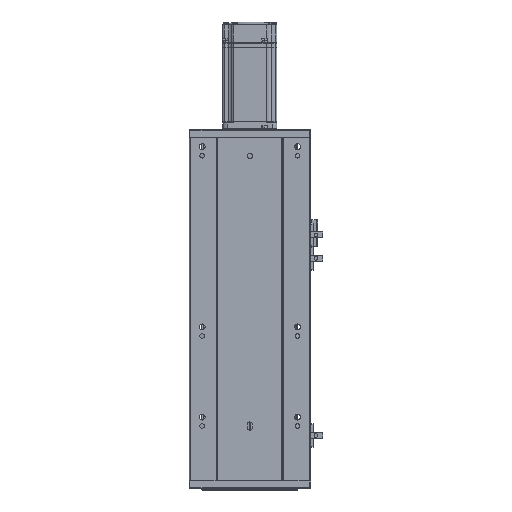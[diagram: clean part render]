
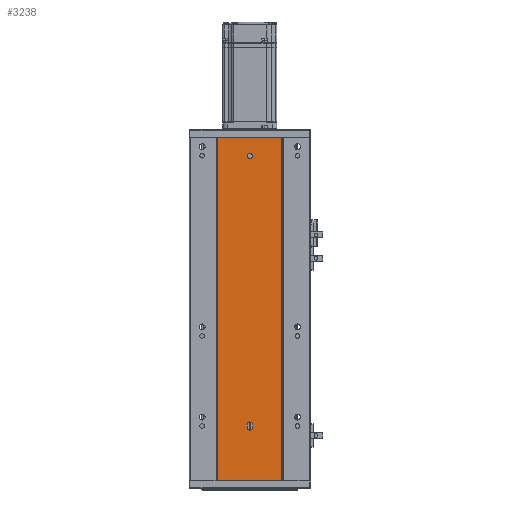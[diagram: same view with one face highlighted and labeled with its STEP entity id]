
A CAD part, front view. The second image highlights one B-rep face of the part: STEP entity #3238.
In plain terms, the highlighted planar face has unit normal (0, -1, 0).
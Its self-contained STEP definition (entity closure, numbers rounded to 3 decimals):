
#1082 = VECTOR ( 'NONE', #6982, 1000. ) ;
#2100 = LINE ( 'NONE', #40048, #53718 ) ;
#2312 = DIRECTION ( 'NONE',  ( -1., 0., 0. ) ) ;
#2593 = CARTESIAN_POINT ( 'NONE',  ( 137.505, 78.746, 62.5 ) ) ;
#2704 = EDGE_CURVE ( 'NONE', #26591, #52765, #48004, .T. ) ;
#2897 = EDGE_CURVE ( 'NONE', #39239, #25051, #39515, .T. ) ;
#3238 = ADVANCED_FACE ( 'NONE', ( #40252, #56619, #10503 ), #15409, .T. ) ;
#3242 = VECTOR ( 'NONE', #62165, 1000. ) ;
#3584 = CARTESIAN_POINT ( 'NONE',  ( 134.505, 78.746, 364. ) ) ;
#3923 = LINE ( 'NONE', #28647, #10943 ) ;
#4868 = DIRECTION ( 'NONE',  ( 1., 0., 0. ) ) ;
#6282 = EDGE_CURVE ( 'NONE', #39239, #32835, #24434, .T. ) ;
#6982 = DIRECTION ( 'NONE',  ( 0., 0., 1. ) ) ;
#8758 = DIRECTION ( 'NONE',  ( 1., 0., 0. ) ) ;
#8983 = CARTESIAN_POINT ( 'NONE',  ( 134.505, 78.746, 62.5 ) ) ;
#9131 = DIRECTION ( 'NONE',  ( 0., 0., -1. ) ) ;
#10130 = AXIS2_PLACEMENT_3D ( 'NONE', #48843, #49499, #18923 ) ;
#10503 = FACE_OUTER_BOUND ( 'NONE', #21276, .T. ) ;
#10943 = VECTOR ( 'NONE', #28867, 1000. ) ;
#11109 = VECTOR ( 'NONE', #9131, 1000. ) ;
#12628 = AXIS2_PLACEMENT_3D ( 'NONE', #61837, #62502, #37434 ) ;
#14140 = CARTESIAN_POINT ( 'NONE',  ( 99.005, 78.746, 0. ) ) ;
#14531 = EDGE_CURVE ( 'NONE', #61597, #45231, #3923, .T. ) ;
#14753 = CIRCLE ( 'NONE', #10130, 3. ) ;
#14921 = DIRECTION ( 'NONE',  ( 0., -1., 0. ) ) ;
#15367 = CIRCLE ( 'NONE', #15568, 3. ) ;
#15409 = PLANE ( 'NONE',  #26062 ) ;
#15568 = AXIS2_PLACEMENT_3D ( 'NONE', #34880, #14921, #4868 ) ;
#17283 = VERTEX_POINT ( 'NONE', #52988 ) ;
#17548 = CARTESIAN_POINT ( 'NONE',  ( 170.005, 78.746, 0. ) ) ;
#17961 = ORIENTED_EDGE ( 'NONE', *, *, #22778, .F. ) ;
#18923 = DIRECTION ( 'NONE',  ( 1., 0., 0. ) ) ;
#19047 = CIRCLE ( 'NONE', #12628, 3. ) ;
#20081 = CIRCLE ( 'NONE', #30023, 3. ) ;
#20264 = CARTESIAN_POINT ( 'NONE',  ( 0., 78.746, 381. ) ) ;
#21276 = EDGE_LOOP ( 'NONE', ( #39801, #61050, #62519, #27667 ) ) ;
#21503 = EDGE_CURVE ( 'NONE', #45231, #26591, #14753, .T. ) ;
#21790 = CARTESIAN_POINT ( 'NONE',  ( 0., 78.746, 0. ) ) ;
#22778 = EDGE_CURVE ( 'NONE', #17283, #40882, #15367, .T. ) ;
#24419 = LINE ( 'NONE', #21790, #3242 ) ;
#24434 = LINE ( 'NONE', #39122, #11109 ) ;
#24837 = CARTESIAN_POINT ( 'NONE',  ( 131.505, 78.746, 59.5 ) ) ;
#24952 = ORIENTED_EDGE ( 'NONE', *, *, #21503, .F. ) ;
#25051 = VERTEX_POINT ( 'NONE', #42991 ) ;
#26062 = AXIS2_PLACEMENT_3D ( 'NONE', #20264, #39720, #40355 ) ;
#26591 = VERTEX_POINT ( 'NONE', #61543 ) ;
#27173 = CARTESIAN_POINT ( 'NONE',  ( 170.005, 78.746, 381. ) ) ;
#27667 = ORIENTED_EDGE ( 'NONE', *, *, #35440, .T. ) ;
#28647 = CARTESIAN_POINT ( 'NONE',  ( 131.505, 78.746, 62.5 ) ) ;
#28867 = DIRECTION ( 'NONE',  ( 0., 0., -1. ) ) ;
#29603 = DIRECTION ( 'NONE',  ( 0., 0., -1. ) ) ;
#30023 = AXIS2_PLACEMENT_3D ( 'NONE', #8983, #33983, #8758 ) ;
#30118 = ORIENTED_EDGE ( 'NONE', *, *, #2704, .F. ) ;
#30923 = EDGE_CURVE ( 'NONE', #40882, #17283, #19047, .T. ) ;
#31217 = EDGE_LOOP ( 'NONE', ( #17961, #52483 ) ) ;
#31807 = VERTEX_POINT ( 'NONE', #14140 ) ;
#32479 = CARTESIAN_POINT ( 'NONE',  ( 131.505, 78.746, 62.5 ) ) ;
#32835 = VERTEX_POINT ( 'NONE', #17548 ) ;
#33983 = DIRECTION ( 'NONE',  ( 0., -1., 0. ) ) ;
#34880 = CARTESIAN_POINT ( 'NONE',  ( 134.505, 78.746, 361. ) ) ;
#35440 = EDGE_CURVE ( 'NONE', #25051, #31807, #2100, .T. ) ;
#36376 = VECTOR ( 'NONE', #2312, 1000. ) ;
#37434 = DIRECTION ( 'NONE',  ( 1., 0., 0. ) ) ;
#38596 = EDGE_CURVE ( 'NONE', #32835, #31807, #24419, .T. ) ;
#39122 = CARTESIAN_POINT ( 'NONE',  ( 170.005, 78.746, 381. ) ) ;
#39239 = VERTEX_POINT ( 'NONE', #27173 ) ;
#39515 = LINE ( 'NONE', #61952, #36376 ) ;
#39720 = DIRECTION ( 'NONE',  ( 0., -1., 0. ) ) ;
#39801 = ORIENTED_EDGE ( 'NONE', *, *, #38596, .F. ) ;
#40048 = CARTESIAN_POINT ( 'NONE',  ( 99.005, 78.746, 381. ) ) ;
#40252 = FACE_BOUND ( 'NONE', #42349, .T. ) ;
#40355 = DIRECTION ( 'NONE',  ( 1., 0., 0. ) ) ;
#40882 = VERTEX_POINT ( 'NONE', #3584 ) ;
#42349 = EDGE_LOOP ( 'NONE', ( #61532, #30118, #24952, #43672 ) ) ;
#42991 = CARTESIAN_POINT ( 'NONE',  ( 99.005, 78.746, 381. ) ) ;
#43672 = ORIENTED_EDGE ( 'NONE', *, *, #14531, .F. ) ;
#43824 = EDGE_CURVE ( 'NONE', #52765, #61597, #20081, .T. ) ;
#45231 = VERTEX_POINT ( 'NONE', #24837 ) ;
#48004 = LINE ( 'NONE', #2593, #1082 ) ;
#48843 = CARTESIAN_POINT ( 'NONE',  ( 134.505, 78.746, 59.5 ) ) ;
#49499 = DIRECTION ( 'NONE',  ( 0., -1., 0. ) ) ;
#50204 = CARTESIAN_POINT ( 'NONE',  ( 137.505, 78.746, 62.5 ) ) ;
#52483 = ORIENTED_EDGE ( 'NONE', *, *, #30923, .F. ) ;
#52765 = VERTEX_POINT ( 'NONE', #50204 ) ;
#52988 = CARTESIAN_POINT ( 'NONE',  ( 134.505, 78.746, 358. ) ) ;
#53718 = VECTOR ( 'NONE', #29603, 1000. ) ;
#56619 = FACE_BOUND ( 'NONE', #31217, .T. ) ;
#61050 = ORIENTED_EDGE ( 'NONE', *, *, #6282, .F. ) ;
#61532 = ORIENTED_EDGE ( 'NONE', *, *, #43824, .F. ) ;
#61543 = CARTESIAN_POINT ( 'NONE',  ( 137.505, 78.746, 59.5 ) ) ;
#61597 = VERTEX_POINT ( 'NONE', #32479 ) ;
#61837 = CARTESIAN_POINT ( 'NONE',  ( 134.505, 78.746, 361. ) ) ;
#61952 = CARTESIAN_POINT ( 'NONE',  ( 0., 78.746, 381. ) ) ;
#62165 = DIRECTION ( 'NONE',  ( -1., 0., 0. ) ) ;
#62502 = DIRECTION ( 'NONE',  ( 0., -1., 0. ) ) ;
#62519 = ORIENTED_EDGE ( 'NONE', *, *, #2897, .T. ) ;
